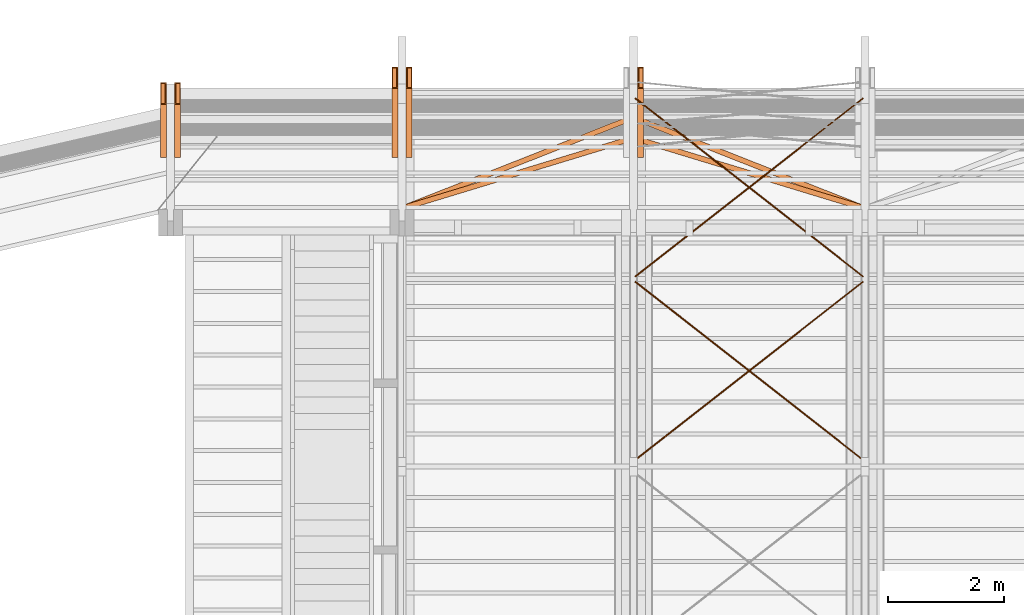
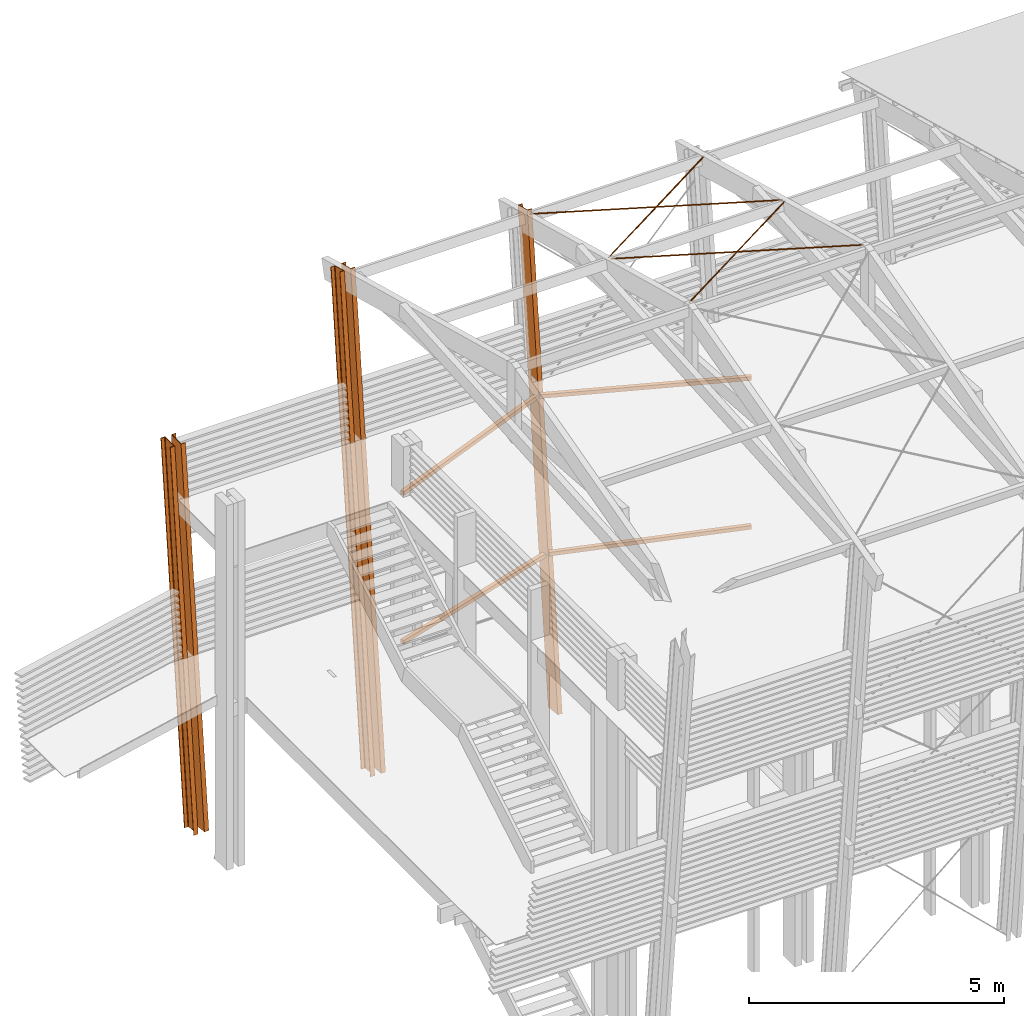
# One storey, part 39 of 48: 13 proxies.
"""IFC2X3 building model written with IfcOpenShell, lengths in metres."""

from ifc_helpers import new_model, si_unit, direction, frame, origin_with_axes, place, context, subcontext, project, spatial, faceted_brep, material, element, save


model = new_model("IFC2X3")

# Units and contexts
model_context = context("Model", 3, precision=1e-06, world=origin_with_axes(), true_north=direction((0.0, 1.0, 0.0)))
body_context = subcontext(model_context, "Body", "Model", "MODEL_VIEW")
ifc_project = project(units=[si_unit("LENGTHUNIT", "METRE"), si_unit("AREAUNIT", "SQUARE_METRE"), si_unit("VOLUMEUNIT", "CUBIC_METRE"), si_unit("PLANEANGLEUNIT", "RADIAN")], contexts=[model_context])

# Site, building, storey
site_placement = place(None, origin_with_axes())
site = spatial("IfcSite", under=ifc_project, at=site_placement, CompositionType="ELEMENT")
building_placement = place(site_placement, origin_with_axes())
building = spatial("IfcBuilding", under=site, at=building_placement, Name="Building 1", CompositionType="ELEMENT")
storey_placement = place(building_placement, origin_with_axes())
storey = spatial("IfcBuildingStorey", under=building, at=storey_placement, Name="Storey 1", CompositionType="ELEMENT", Elevation=0.0)

# Proxies
ifc_material_1 = material(Name="Acier")
proxy_1_placement = place(storey_placement, frame((33.4575102, -182.8443274, 11.682812), z_axis=(0.6294478, -0.7505657, 0.2011135), x_axis=(-0.7770428, -0.6079999, 0.1629131)))
element("IfcBuildingElementProxy", 1, at=proxy_1_placement, inside=storey, material=ifc_material_1, Name="CVT", context=body_context, shape_type="Brep", body=[
    faceted_brep([(5.0647581, -0.0093969, 0.0034202), (0.0, -0.01, 0.0), (5.0647581, -0.01, 0.0), (0.0, -0.0093969, -0.0034202), (5.0647581, -0.0093969, -0.0034202), (0.0, -0.0076604, -0.0064279), (5.0647581, -0.0076604, -0.0064279), (0.0, -0.005, -0.0086603), (5.0647581, -0.005, -0.0086603), (0.0, -0.0017365, -0.0098481), (5.0647581, -0.0017365, -0.0098481), (0.0, 0.0017365, -0.0098481), (5.0647581, 0.0017365, -0.0098481), (0.0, 0.005, -0.0086603), (5.0647581, 0.005, -0.0086603), (0.0, 0.0076604, -0.0064279), (5.0647581, 0.0076604, -0.0064279), (0.0, 0.0093969, -0.0034202), (5.0647581, 0.0093969, -0.0034202), (0.0, 0.01, 0.0), (5.0647581, 0.01, 0.0), (0.0, 0.0093969, 0.0034202), (5.0647581, 0.0093969, 0.0034202), (0.0, 0.0076604, 0.0064279), (5.0647581, 0.0076604, 0.0064279), (0.0, 0.005, 0.0086603), (5.0647581, 0.005, 0.0086603), (0.0, 0.0017365, 0.0098481), (5.0647581, 0.0017365, 0.0098481), (0.0, -0.0017365, 0.0098481), (5.0647581, -0.0017365, 0.0098481), (0.0, -0.005, 0.0086603), (5.0647581, -0.005, 0.0086603), (0.0, -0.0076604, 0.0064279), (5.0647581, -0.0076604, 0.0064279), (0.0, -0.0093969, 0.0034202)], [[[0, 1, 2]], [[2, 1, 3]], [[2, 3, 4]], [[4, 3, 5]], [[4, 5, 6]], [[6, 5, 7]], [[6, 7, 8]], [[8, 7, 9]], [[8, 9, 10]], [[10, 9, 11]], [[10, 11, 12]], [[12, 11, 13]], [[12, 13, 14]], [[14, 13, 15]], [[14, 15, 16]], [[16, 15, 17]], [[16, 17, 18]], [[18, 17, 19]], [[18, 19, 20]], [[20, 19, 21]], [[20, 21, 22]], [[22, 21, 23]], [[22, 23, 24]], [[24, 23, 25]], [[24, 25, 26]], [[26, 25, 27]], [[26, 27, 28]], [[28, 27, 29]], [[28, 29, 30]], [[30, 29, 31]], [[30, 31, 32]], [[32, 31, 33]], [[32, 33, 34]], [[34, 33, 35]], [[34, 35, 0]], [[0, 35, 1]], [[10, 12, 8]], [[8, 12, 14]], [[8, 14, 6]], [[6, 14, 16]], [[6, 16, 4]], [[4, 16, 18]], [[4, 18, 2]], [[2, 18, 20]], [[2, 20, 0]], [[0, 20, 22]], [[0, 22, 34]], [[34, 22, 24]], [[34, 24, 32]], [[32, 24, 26]], [[32, 26, 30]], [[30, 26, 28]], [[29, 27, 31]], [[31, 27, 25]], [[31, 25, 33]], [[33, 25, 23]], [[33, 23, 35]], [[35, 23, 21]], [[35, 21, 1]], [[1, 21, 19]], [[1, 19, 3]], [[3, 19, 17]], [[3, 17, 5]], [[5, 17, 15]], [[5, 15, 7]], [[7, 15, 13]], [[7, 13, 9]], [[9, 13, 11]]]),
])
proxy_2_placement = place(storey_placement, frame((29.5219768, -182.8443274, 11.682812), z_axis=(-0.6294478, -0.7505657, 0.2011135), x_axis=(0.7770428, -0.6079999, 0.1629131)))
element("IfcBuildingElementProxy", 2, at=proxy_2_placement, inside=storey, material=ifc_material_1, Name="CVT", context=body_context, shape_type="Brep", body=[
    faceted_brep([(5.0647581, 0.0093969, -0.0034202), (0.0, 0.01, 0.0), (5.0647581, 0.01, 0.0), (0.0, 0.0093969, 0.0034202), (5.0647581, 0.0093969, 0.0034202), (0.0, 0.0076604, 0.0064279), (5.0647581, 0.0076604, 0.0064279), (0.0, 0.005, 0.0086603), (5.0647581, 0.005, 0.0086603), (0.0, 0.0017365, 0.0098481), (5.0647581, 0.0017365, 0.0098481), (0.0, -0.0017365, 0.0098481), (5.0647581, -0.0017365, 0.0098481), (0.0, -0.005, 0.0086603), (5.0647581, -0.005, 0.0086603), (0.0, -0.0076604, 0.0064279), (5.0647581, -0.0076604, 0.0064279), (0.0, -0.0093969, 0.0034202), (5.0647581, -0.0093969, 0.0034202), (0.0, -0.01, 0.0), (5.0647581, -0.01, 0.0), (0.0, -0.0093969, -0.0034202), (5.0647581, -0.0093969, -0.0034202), (0.0, -0.0076604, -0.0064279), (5.0647581, -0.0076604, -0.0064279), (0.0, -0.005, -0.0086603), (5.0647581, -0.005, -0.0086603), (0.0, -0.0017365, -0.0098481), (5.0647581, -0.0017365, -0.0098481), (0.0, 0.0017365, -0.0098481), (5.0647581, 0.0017365, -0.0098481), (0.0, 0.005, -0.0086603), (5.0647581, 0.005, -0.0086603), (0.0, 0.0076604, -0.0064279), (5.0647581, 0.0076604, -0.0064279), (0.0, 0.0093969, -0.0034202)], [[[0, 1, 2]], [[2, 1, 3]], [[2, 3, 4]], [[4, 3, 5]], [[4, 5, 6]], [[6, 5, 7]], [[6, 7, 8]], [[8, 7, 9]], [[8, 9, 10]], [[10, 9, 11]], [[10, 11, 12]], [[12, 11, 13]], [[12, 13, 14]], [[14, 13, 15]], [[14, 15, 16]], [[16, 15, 17]], [[16, 17, 18]], [[18, 17, 19]], [[18, 19, 20]], [[20, 19, 21]], [[20, 21, 22]], [[22, 21, 23]], [[22, 23, 24]], [[24, 23, 25]], [[24, 25, 26]], [[26, 25, 27]], [[26, 27, 28]], [[28, 27, 29]], [[28, 29, 30]], [[30, 29, 31]], [[30, 31, 32]], [[32, 31, 33]], [[32, 33, 34]], [[34, 33, 35]], [[34, 35, 0]], [[0, 35, 1]], [[10, 12, 8]], [[8, 12, 14]], [[8, 14, 6]], [[6, 14, 16]], [[6, 16, 4]], [[4, 16, 18]], [[4, 18, 2]], [[2, 18, 20]], [[2, 20, 0]], [[0, 20, 22]], [[0, 22, 34]], [[34, 22, 24]], [[34, 24, 32]], [[32, 24, 26]], [[32, 26, 30]], [[30, 26, 28]], [[29, 27, 31]], [[31, 27, 25]], [[31, 25, 33]], [[33, 25, 23]], [[33, 23, 35]], [[35, 23, 21]], [[35, 21, 1]], [[1, 21, 19]], [[1, 19, 3]], [[3, 19, 17]], [[3, 17, 5]], [[5, 17, 15]], [[5, 15, 7]], [[7, 15, 13]], [[7, 13, 9]], [[9, 13, 11]]]),
])
proxy_3_placement = place(storey_placement, frame((33.4575106, -186.0137676, 12.5320609), z_axis=(0.6294478, -0.7505657, 0.2011135), x_axis=(-0.7770428, -0.6079999, 0.1629131)))
element("IfcBuildingElementProxy", 3, at=proxy_3_placement, inside=storey, material=ifc_material_1, Name="CVT", context=body_context, shape_type="Brep", body=[
    faceted_brep([(5.0647581, -0.0093969, 0.0034202), (0.0, -0.01, 0.0), (5.0647581, -0.01, 0.0), (0.0, -0.0093969, -0.0034202), (5.0647581, -0.0093969, -0.0034202), (0.0, -0.0076604, -0.0064279), (5.0647581, -0.0076604, -0.0064279), (0.0, -0.005, -0.0086603), (5.0647581, -0.005, -0.0086603), (0.0, -0.0017365, -0.0098481), (5.0647581, -0.0017365, -0.0098481), (0.0, 0.0017365, -0.0098481), (5.0647581, 0.0017365, -0.0098481), (0.0, 0.005, -0.0086603), (5.0647581, 0.005, -0.0086603), (0.0, 0.0076604, -0.0064279), (5.0647581, 0.0076604, -0.0064279), (0.0, 0.0093969, -0.0034202), (5.0647581, 0.0093969, -0.0034202), (0.0, 0.01, 0.0), (5.0647581, 0.01, 0.0), (0.0, 0.0093969, 0.0034202), (5.0647581, 0.0093969, 0.0034202), (0.0, 0.0076604, 0.0064279), (5.0647581, 0.0076604, 0.0064279), (0.0, 0.005, 0.0086603), (5.0647581, 0.005, 0.0086603), (0.0, 0.0017365, 0.0098481), (5.0647581, 0.0017365, 0.0098481), (0.0, -0.0017365, 0.0098481), (5.0647581, -0.0017365, 0.0098481), (0.0, -0.005, 0.0086603), (5.0647581, -0.005, 0.0086603), (0.0, -0.0076604, 0.0064279), (5.0647581, -0.0076604, 0.0064279), (0.0, -0.0093969, 0.0034202)], [[[0, 1, 2]], [[2, 1, 3]], [[2, 3, 4]], [[4, 3, 5]], [[4, 5, 6]], [[6, 5, 7]], [[6, 7, 8]], [[8, 7, 9]], [[8, 9, 10]], [[10, 9, 11]], [[10, 11, 12]], [[12, 11, 13]], [[12, 13, 14]], [[14, 13, 15]], [[14, 15, 16]], [[16, 15, 17]], [[16, 17, 18]], [[18, 17, 19]], [[18, 19, 20]], [[20, 19, 21]], [[20, 21, 22]], [[22, 21, 23]], [[22, 23, 24]], [[24, 23, 25]], [[24, 25, 26]], [[26, 25, 27]], [[26, 27, 28]], [[28, 27, 29]], [[28, 29, 30]], [[30, 29, 31]], [[30, 31, 32]], [[32, 31, 33]], [[32, 33, 34]], [[34, 33, 35]], [[34, 35, 0]], [[0, 35, 1]], [[10, 12, 8]], [[8, 12, 14]], [[8, 14, 6]], [[6, 14, 16]], [[6, 16, 4]], [[4, 16, 18]], [[4, 18, 2]], [[2, 18, 20]], [[2, 20, 0]], [[0, 20, 22]], [[0, 22, 34]], [[34, 22, 24]], [[34, 24, 32]], [[32, 24, 26]], [[32, 26, 30]], [[30, 26, 28]], [[29, 27, 31]], [[31, 27, 25]], [[31, 25, 33]], [[33, 25, 23]], [[33, 23, 35]], [[35, 23, 21]], [[35, 21, 1]], [[1, 21, 19]], [[1, 19, 3]], [[3, 19, 17]], [[3, 17, 5]], [[5, 17, 15]], [[5, 15, 7]], [[7, 15, 13]], [[7, 13, 9]], [[9, 13, 11]]]),
])
proxy_4_placement = place(storey_placement, frame((29.5219764, -186.0137676, 12.5320609), z_axis=(-0.6294478, -0.7505657, 0.2011135), x_axis=(0.7770428, -0.6079999, 0.1629131)))
element("IfcBuildingElementProxy", 4, at=proxy_4_placement, inside=storey, material=ifc_material_1, Name="CVT", context=body_context, shape_type="Brep", body=[
    faceted_brep([(5.0647581, 0.0093969, -0.0034202), (0.0, 0.01, 0.0), (5.0647581, 0.01, 0.0), (0.0, 0.0093969, 0.0034202), (5.0647581, 0.0093969, 0.0034202), (0.0, 0.0076604, 0.0064279), (5.0647581, 0.0076604, 0.0064279), (0.0, 0.005, 0.0086603), (5.0647581, 0.005, 0.0086603), (0.0, 0.0017365, 0.0098481), (5.0647581, 0.0017365, 0.0098481), (0.0, -0.0017365, 0.0098481), (5.0647581, -0.0017365, 0.0098481), (0.0, -0.005, 0.0086603), (5.0647581, -0.005, 0.0086603), (0.0, -0.0076604, 0.0064279), (5.0647581, -0.0076604, 0.0064279), (0.0, -0.0093969, 0.0034202), (5.0647581, -0.0093969, 0.0034202), (0.0, -0.01, 0.0), (5.0647581, -0.01, 0.0), (0.0, -0.0093969, -0.0034202), (5.0647581, -0.0093969, -0.0034202), (0.0, -0.0076604, -0.0064279), (5.0647581, -0.0076604, -0.0064279), (0.0, -0.005, -0.0086603), (5.0647581, -0.005, -0.0086603), (0.0, -0.0017365, -0.0098481), (5.0647581, -0.0017365, -0.0098481), (0.0, 0.0017365, -0.0098481), (5.0647581, 0.0017365, -0.0098481), (0.0, 0.005, -0.0086603), (5.0647581, 0.005, -0.0086603), (0.0, 0.0076604, -0.0064279), (5.0647581, 0.0076604, -0.0064279), (0.0, 0.0093969, -0.0034202)], [[[0, 1, 2]], [[2, 1, 3]], [[2, 3, 4]], [[4, 3, 5]], [[4, 5, 6]], [[6, 5, 7]], [[6, 7, 8]], [[8, 7, 9]], [[8, 9, 10]], [[10, 9, 11]], [[10, 11, 12]], [[12, 11, 13]], [[12, 13, 14]], [[14, 13, 15]], [[14, 15, 16]], [[16, 15, 17]], [[16, 17, 18]], [[18, 17, 19]], [[18, 19, 20]], [[20, 19, 21]], [[20, 21, 22]], [[22, 21, 23]], [[22, 23, 24]], [[24, 23, 25]], [[24, 25, 26]], [[26, 25, 27]], [[26, 27, 28]], [[28, 27, 29]], [[28, 29, 30]], [[30, 29, 31]], [[30, 31, 32]], [[32, 31, 33]], [[32, 33, 34]], [[34, 33, 35]], [[34, 35, 0]], [[0, 35, 1]], [[10, 12, 8]], [[8, 12, 14]], [[8, 14, 6]], [[6, 14, 16]], [[6, 16, 4]], [[4, 16, 18]], [[4, 18, 2]], [[2, 18, 20]], [[2, 20, 0]], [[0, 20, 22]], [[0, 22, 34]], [[34, 22, 24]], [[34, 24, 32]], [[32, 24, 26]], [[32, 26, 30]], [[30, 26, 28]], [[29, 27, 31]], [[31, 27, 25]], [[31, 25, 33]], [[33, 25, 23]], [[33, 23, 35]], [[35, 23, 21]], [[35, 21, 1]], [[1, 21, 19]], [[1, 19, 3]], [[3, 19, 17]], [[3, 17, 5]], [[5, 17, 15]], [[5, 15, 7]], [[7, 15, 13]], [[7, 13, 9]], [[9, 13, 11]]]),
])
ifc_material_2 = material(Name="GL28h")
proxy_5_placement = place(storey_placement, frame((33.4372017, -184.7290801, 3.984), z_axis=(-0.2909669, -0.9567331, 0.0), x_axis=(-0.9567331, 0.2909669, 0.0)))
element("IfcBuildingElementProxy", 5, at=proxy_5_placement, inside=storey, material=ifc_material_2, Name="CVLP", context=body_context, shape_type="Brep", body=[
    faceted_brep([(4.071058, -0.045, -0.045), (4.071058, -0.045, 0.045), (0.0, -0.045, 0.045), (0.0, -0.045, -0.045), (4.071058, 0.045, 0.045), (0.0, 0.045, 0.045), (4.071058, 0.045, -0.045), (0.0, 0.045, -0.045)], [[[0, 1, 2, 3]], [[1, 4, 5, 2]], [[4, 6, 7, 5]], [[6, 0, 3, 7]], [[1, 0, 6, 4]], [[7, 3, 2, 5]]]),
])
proxy_6_placement = place(storey_placement, frame((29.6107437, -182.4859924, 11.6408612), z_axis=(0.0, -0.9945219, 0.1045285), x_axis=(0.0, -0.1045285, -0.9945219)))
element("IfcBuildingElementProxy", 6, at=proxy_6_placement, inside=storey, material=ifc_material_1, Name="Poteau", context=body_context, shape_type="Brep", body=[
    faceted_brep([(0.0588262, 0.0506328, -0.181414), (0.0592057, 0.051, -0.18381), (0.0579402, 0.0433995, -0.17582), (0.0601861, 0.051, -0.19), (0.0574199, -0.022299, -0.172535), (0.0601861, -0.051, -0.19), (0.0572658, -0.0270483, -0.1715622), (0.0568935, -0.0312883, -0.1692116), (0.0045382, -0.0367655, 0.161347), (0.0052972, -0.0375, 0.156555), (0.0, -0.051, 0.19), (0.0548889, -0.0375, -0.156555), (0.0556479, -0.0367655, -0.161347), (0.0563372, -0.0346296, -0.165699), (0.0009804, 0.051, 0.18381), (0.0022459, 0.0433995, 0.17582), (0.0, 0.051, 0.19), (0.0027662, -0.022299, 0.172535), (0.0029203, -0.0270483, 0.1715622), (0.0032926, -0.0312883, 0.1692116), (0.0013599, 0.0506328, 0.181414), (0.0017045, 0.0495648, 0.179238), (0.0019827, 0.0478941, 0.1774817), (0.0021689, 0.0457742, 0.1763064), (0.0038489, -0.0346296, 0.165699), (0.0580172, 0.0457742, -0.1763064), (0.0582034, 0.0478941, -0.1774817), (0.0584816, 0.0495648, -0.179238), (11.420672, 0.0433995, 0.17582), (11.420672, 0.0457742, 0.1763064), (11.420672, 0.0478941, 0.1774817), (11.420672, 0.0495648, 0.179238), (11.420672, 0.0506328, 0.181414), (11.420672, 0.051, 0.18381), (11.420672, 0.051, 0.19), (11.420672, -0.051, 0.19), (11.420672, -0.051, -0.19), (11.420672, 0.051, -0.19), (11.420672, 0.051, -0.18381), (11.420672, 0.0506328, -0.181414), (11.420672, 0.0495648, -0.179238), (11.420672, 0.0478941, -0.1774817), (11.420672, 0.0457742, -0.1763064), (11.420672, 0.0433995, -0.17582), (11.420672, -0.022299, -0.172535), (11.420672, -0.0270483, -0.1715622), (11.420672, -0.0312883, -0.1692116), (11.420672, -0.0346296, -0.165699), (11.420672, -0.0367655, -0.161347), (11.420672, -0.0375, -0.156555), (11.420672, -0.0375, 0.156555), (11.420672, -0.0367655, 0.161347), (11.420672, -0.0346296, 0.165699), (11.420672, -0.0312883, 0.1692116), (11.420672, -0.0270483, 0.1715622), (11.420672, -0.022299, 0.172535)], [[[0, 1, 2]], [[2, 1, 3]], [[2, 3, 4]], [[4, 3, 5]], [[4, 5, 6]], [[6, 5, 7]], [[8, 9, 10]], [[10, 9, 11]], [[10, 11, 5]], [[5, 11, 12]], [[5, 12, 13]], [[14, 15, 16]], [[16, 15, 17]], [[16, 17, 10]], [[10, 17, 18]], [[10, 18, 19]], [[14, 20, 15]], [[15, 20, 21]], [[15, 21, 22]], [[22, 23, 15]], [[19, 24, 10]], [[10, 24, 8]], [[13, 7, 5]], [[25, 26, 2]], [[2, 26, 27]], [[2, 27, 0]], [[15, 23, 28]], [[28, 23, 29]], [[23, 22, 29]], [[29, 22, 30]], [[22, 21, 30]], [[30, 21, 31]], [[21, 20, 31]], [[31, 20, 32]], [[20, 14, 32]], [[32, 14, 33]], [[16, 34, 14]], [[14, 34, 33]], [[10, 5, 35]], [[35, 5, 36]], [[5, 3, 36]], [[36, 3, 37]], [[1, 38, 3]], [[3, 38, 37]], [[1, 0, 38]], [[38, 0, 39]], [[0, 27, 39]], [[39, 27, 40]], [[27, 26, 40]], [[40, 26, 41]], [[26, 25, 41]], [[41, 25, 42]], [[25, 2, 42]], [[42, 2, 43]], [[4, 44, 2]], [[2, 44, 43]], [[4, 6, 44]], [[44, 6, 45]], [[6, 7, 45]], [[45, 7, 46]], [[7, 13, 46]], [[46, 13, 47]], [[13, 12, 47]], [[47, 12, 48]], [[12, 11, 48]], [[48, 11, 49]], [[9, 50, 11]], [[11, 50, 49]], [[9, 8, 50]], [[50, 8, 51]], [[8, 24, 51]], [[51, 24, 52]], [[24, 19, 52]], [[52, 19, 53]], [[19, 18, 53]], [[53, 18, 54]], [[18, 17, 54]], [[54, 17, 55]], [[15, 28, 17]], [[17, 28, 55]], [[35, 34, 10]], [[10, 34, 16]], [[48, 49, 36]], [[36, 49, 50]], [[36, 50, 35]], [[35, 50, 51]], [[35, 51, 52]], [[41, 42, 38]], [[38, 42, 43]], [[38, 43, 37]], [[37, 43, 44]], [[37, 44, 36]], [[36, 44, 45]], [[36, 45, 46]], [[39, 40, 38]], [[38, 40, 41]], [[46, 47, 36]], [[36, 47, 48]], [[52, 53, 35]], [[35, 53, 54]], [[35, 54, 55]], [[35, 55, 34]], [[34, 55, 28]], [[34, 28, 33]], [[33, 28, 32]], [[29, 30, 28]], [[28, 30, 31]], [[28, 31, 32]]]),
])
proxy_7_placement = place(storey_placement, frame((25.6107437, -182.4859924, 11.6408612), z_axis=(0.0, -0.9945219, 0.1045285), x_axis=(0.0, -0.1045285, -0.9945219)))
element("IfcBuildingElementProxy", 7, at=proxy_7_placement, inside=storey, material=ifc_material_1, Name="Poteau", context=body_context, shape_type="Brep", body=[
    faceted_brep([(0.0588262, 0.0506328, -0.181414), (0.0592057, 0.051, -0.18381), (0.0579402, 0.0433995, -0.17582), (0.0601861, 0.051, -0.19), (0.0574199, -0.022299, -0.172535), (0.0601861, -0.051, -0.19), (0.0572658, -0.0270483, -0.1715622), (0.0568935, -0.0312883, -0.1692116), (0.0045382, -0.0367655, 0.161347), (0.0052972, -0.0375, 0.156555), (0.0, -0.051, 0.19), (0.0548889, -0.0375, -0.156555), (0.0556479, -0.0367655, -0.161347), (0.0563372, -0.0346296, -0.165699), (0.0009804, 0.051, 0.18381), (0.0022459, 0.0433995, 0.17582), (0.0, 0.051, 0.19), (0.0027662, -0.022299, 0.172535), (0.0029203, -0.0270483, 0.1715622), (0.0032926, -0.0312883, 0.1692116), (0.0013599, 0.0506328, 0.181414), (0.0017045, 0.0495648, 0.179238), (0.0019827, 0.0478941, 0.1774817), (0.0021689, 0.0457742, 0.1763064), (0.0038489, -0.0346296, 0.165699), (0.0580172, 0.0457742, -0.1763064), (0.0582034, 0.0478941, -0.1774817), (0.0584816, 0.0495648, -0.179238), (11.420672, 0.0433995, 0.17582), (11.420672, 0.0457742, 0.1763064), (11.420672, 0.0478941, 0.1774817), (11.420672, 0.0495648, 0.179238), (11.420672, 0.0506328, 0.181414), (11.420672, 0.051, 0.18381), (11.420672, 0.051, 0.19), (11.420672, -0.051, 0.19), (11.420672, -0.051, -0.19), (11.420672, 0.051, -0.19), (11.420672, 0.051, -0.18381), (11.420672, 0.0506328, -0.181414), (11.420672, 0.0495648, -0.179238), (11.420672, 0.0478941, -0.1774817), (11.420672, 0.0457742, -0.1763064), (11.420672, 0.0433995, -0.17582), (11.420672, -0.022299, -0.172535), (11.420672, -0.0270483, -0.1715622), (11.420672, -0.0312883, -0.1692116), (11.420672, -0.0346296, -0.165699), (11.420672, -0.0367655, -0.161347), (11.420672, -0.0375, -0.156555), (11.420672, -0.0375, 0.156555), (11.420672, -0.0367655, 0.161347), (11.420672, -0.0346296, 0.165699), (11.420672, -0.0312883, 0.1692116), (11.420672, -0.0270483, 0.1715622), (11.420672, -0.022299, 0.172535)], [[[0, 1, 2]], [[2, 1, 3]], [[2, 3, 4]], [[4, 3, 5]], [[4, 5, 6]], [[6, 5, 7]], [[8, 9, 10]], [[10, 9, 11]], [[10, 11, 5]], [[5, 11, 12]], [[5, 12, 13]], [[14, 15, 16]], [[16, 15, 17]], [[16, 17, 10]], [[10, 17, 18]], [[10, 18, 19]], [[14, 20, 15]], [[15, 20, 21]], [[15, 21, 22]], [[22, 23, 15]], [[19, 24, 10]], [[10, 24, 8]], [[13, 7, 5]], [[25, 26, 2]], [[2, 26, 27]], [[2, 27, 0]], [[15, 23, 28]], [[28, 23, 29]], [[23, 22, 29]], [[29, 22, 30]], [[22, 21, 30]], [[30, 21, 31]], [[21, 20, 31]], [[31, 20, 32]], [[20, 14, 32]], [[32, 14, 33]], [[16, 34, 14]], [[14, 34, 33]], [[10, 5, 35]], [[35, 5, 36]], [[5, 3, 36]], [[36, 3, 37]], [[1, 38, 3]], [[3, 38, 37]], [[1, 0, 38]], [[38, 0, 39]], [[0, 27, 39]], [[39, 27, 40]], [[27, 26, 40]], [[40, 26, 41]], [[26, 25, 41]], [[41, 25, 42]], [[25, 2, 42]], [[42, 2, 43]], [[4, 44, 2]], [[2, 44, 43]], [[4, 6, 44]], [[44, 6, 45]], [[6, 7, 45]], [[45, 7, 46]], [[7, 13, 46]], [[46, 13, 47]], [[13, 12, 47]], [[47, 12, 48]], [[12, 11, 48]], [[48, 11, 49]], [[9, 50, 11]], [[11, 50, 49]], [[9, 8, 50]], [[50, 8, 51]], [[8, 24, 51]], [[51, 24, 52]], [[24, 19, 52]], [[52, 19, 53]], [[19, 18, 53]], [[53, 18, 54]], [[18, 17, 54]], [[54, 17, 55]], [[15, 28, 17]], [[17, 28, 55]], [[35, 34, 10]], [[10, 34, 16]], [[48, 49, 36]], [[36, 49, 50]], [[36, 50, 35]], [[35, 50, 51]], [[35, 51, 52]], [[41, 42, 38]], [[38, 42, 43]], [[38, 43, 37]], [[37, 43, 44]], [[37, 44, 36]], [[36, 44, 45]], [[36, 45, 46]], [[39, 40, 38]], [[38, 40, 41]], [[46, 47, 36]], [[36, 47, 48]], [[52, 53, 35]], [[35, 53, 54]], [[35, 54, 55]], [[35, 55, 34]], [[34, 55, 28]], [[34, 28, 33]], [[33, 28, 32]], [[29, 30, 28]], [[28, 30, 31]], [[28, 31, 32]]]),
])
proxy_8_placement = place(storey_placement, frame((21.3687437, -182.7584788, 9.0483265), z_axis=(0.0, -0.9945219, 0.1045285), x_axis=(0.0, -0.1045285, -0.9945219)))
element("IfcBuildingElementProxy", 8, at=proxy_8_placement, inside=storey, material=ifc_material_1, Name="Poteau", context=body_context, shape_type="Brep", body=[
    faceted_brep([(0.0399396, 0.051, 0.19), (0.0399396, -0.051, 0.19), (8.813857, 0.051, 0.19), (8.813857, -0.051, 0.19), (0.039289, -0.051, 0.18381), (8.813857, -0.051, 0.18381), (0.0390372, -0.0506328, 0.181414), (8.813857, -0.0506328, 0.181414), (0.0388085, -0.0495648, 0.179238), (8.813857, -0.0495648, 0.179238), (0.0386239, -0.0478941, 0.1774817), (8.813857, -0.0478941, 0.1774817), (0.0385004, -0.0457742, 0.1763064), (8.813857, -0.0457742, 0.1763064), (0.0384492, -0.0433995, 0.17582), (8.813857, -0.0433995, 0.17582), (0.038104, 0.022299, 0.172535), (8.813857, 0.022299, 0.172535), (0.0380017, 0.0270483, 0.1715622), (8.813857, 0.0270483, 0.1715622), (0.0377547, 0.0312883, 0.1692116), (8.813857, 0.0312883, 0.1692116), (0.0373855, 0.0346296, 0.165699), (8.813857, 0.0346296, 0.165699), (0.0369281, 0.0367655, 0.161347), (8.813857, 0.0367655, 0.161347), (0.0364244, 0.0375, 0.156555), (8.813857, 0.0375, 0.156555), (0.0035152, 0.0375, -0.156555), (8.813857, 0.0375, -0.156555), (0.0030116, 0.0367655, -0.161347), (8.813857, 0.0367655, -0.161347), (0.0025541, 0.0346296, -0.165699), (8.813857, 0.0346296, -0.165699), (0.0021849, 0.0312883, -0.1692116), (8.813857, 0.0312883, -0.1692116), (0.0019379, 0.0270483, -0.1715622), (8.813857, 0.0270483, -0.1715622), (0.0018356, 0.022299, -0.172535), (8.813857, 0.022299, -0.172535), (0.0014904, -0.0433995, -0.17582), (8.813857, -0.0433995, -0.17582), (0.0014393, -0.0457742, -0.1763064), (8.813857, -0.0457742, -0.1763064), (0.0013157, -0.0478941, -0.1774817), (8.813857, -0.0478941, -0.1774817), (0.0011311, -0.0495648, -0.179238), (8.813857, -0.0495648, -0.179238), (0.0009024, -0.0506328, -0.181414), (8.813857, -0.0506328, -0.181414), (0.0006506, -0.051, -0.18381), (8.813857, -0.051, -0.18381), (0.0, -0.051, -0.19), (8.813857, -0.051, -0.19), (0.0, 0.051, -0.19), (8.813857, 0.051, -0.19)], [[[0, 1, 2]], [[2, 1, 3]], [[4, 5, 1]], [[1, 5, 3]], [[4, 6, 5]], [[5, 6, 7]], [[6, 8, 7]], [[7, 8, 9]], [[8, 10, 9]], [[9, 10, 11]], [[10, 12, 11]], [[11, 12, 13]], [[12, 14, 13]], [[13, 14, 15]], [[16, 17, 14]], [[14, 17, 15]], [[16, 18, 17]], [[17, 18, 19]], [[18, 20, 19]], [[19, 20, 21]], [[20, 22, 21]], [[21, 22, 23]], [[22, 24, 23]], [[23, 24, 25]], [[24, 26, 25]], [[25, 26, 27]], [[28, 29, 26]], [[26, 29, 27]], [[28, 30, 29]], [[29, 30, 31]], [[30, 32, 31]], [[31, 32, 33]], [[32, 34, 33]], [[33, 34, 35]], [[34, 36, 35]], [[35, 36, 37]], [[36, 38, 37]], [[37, 38, 39]], [[40, 41, 38]], [[38, 41, 39]], [[40, 42, 41]], [[41, 42, 43]], [[42, 44, 43]], [[43, 44, 45]], [[44, 46, 45]], [[45, 46, 47]], [[46, 48, 47]], [[47, 48, 49]], [[48, 50, 49]], [[49, 50, 51]], [[52, 53, 50]], [[50, 53, 51]], [[52, 54, 53]], [[53, 54, 55]], [[54, 0, 55]], [[55, 0, 2]], [[32, 30, 54]], [[54, 30, 28]], [[54, 28, 0]], [[0, 28, 26]], [[0, 26, 24]], [[50, 40, 52]], [[52, 40, 38]], [[52, 38, 54]], [[54, 38, 36]], [[54, 36, 34]], [[50, 48, 40]], [[40, 48, 46]], [[40, 46, 44]], [[44, 42, 40]], [[34, 32, 54]], [[24, 22, 0]], [[0, 22, 20]], [[0, 20, 18]], [[18, 16, 0]], [[0, 16, 1]], [[16, 14, 1]], [[1, 14, 4]], [[12, 10, 14]], [[14, 10, 8]], [[14, 8, 6]], [[6, 4, 14]], [[23, 25, 2]], [[2, 25, 27]], [[2, 27, 55]], [[55, 27, 29]], [[55, 29, 31]], [[5, 15, 3]], [[3, 15, 17]], [[3, 17, 2]], [[2, 17, 19]], [[2, 19, 21]], [[5, 7, 15]], [[15, 7, 9]], [[15, 9, 11]], [[11, 13, 15]], [[21, 23, 2]], [[31, 33, 55]], [[55, 33, 35]], [[55, 35, 37]], [[37, 39, 55]], [[55, 39, 53]], [[39, 41, 53]], [[53, 41, 51]], [[41, 43, 51]], [[51, 43, 45]], [[51, 45, 47]], [[47, 49, 51]]]),
])
proxy_9_placement = place(storey_placement, frame((25.3687437, -182.4859924, 11.6408612), z_axis=(0.0, -0.9945219, 0.1045285), x_axis=(0.0, -0.1045285, -0.9945219)))
element("IfcBuildingElementProxy", 9, at=proxy_9_placement, inside=storey, material=ifc_material_1, Name="Poteau", context=body_context, shape_type="Brep", body=[
    faceted_brep([(0.0563372, 0.0346296, -0.165699), (0.0556479, 0.0367655, -0.161347), (0.0601861, 0.051, -0.19), (0.0548889, 0.0375, -0.156555), (0.0, 0.051, 0.19), (0.0052972, 0.0375, 0.156555), (0.0045382, 0.0367655, 0.161347), (0.0592057, -0.051, -0.18381), (0.0579402, -0.0433995, -0.17582), (0.0601861, -0.051, -0.19), (0.0574199, 0.022299, -0.172535), (0.0572658, 0.0270483, -0.1715622), (0.0568935, 0.0312883, -0.1692116), (0.0588262, -0.0506328, -0.181414), (0.0584816, -0.0495648, -0.179238), (0.0582034, -0.0478941, -0.1774817), (0.0580172, -0.0457742, -0.1763064), (0.0038489, 0.0346296, 0.165699), (0.0032926, 0.0312883, 0.1692116), (0.0029203, 0.0270483, 0.1715622), (0.0027662, 0.022299, 0.172535), (0.0, -0.051, 0.19), (0.0022459, -0.0433995, 0.17582), (0.0009804, -0.051, 0.18381), (0.0021689, -0.0457742, 0.1763064), (0.0019827, -0.0478941, 0.1774817), (0.0017045, -0.0495648, 0.179238), (0.0013599, -0.0506328, 0.181414), (11.420672, 0.0375, -0.156555), (11.420672, 0.0367655, -0.161347), (11.420672, 0.0346296, -0.165699), (11.420672, 0.0312883, -0.1692116), (11.420672, 0.0270483, -0.1715622), (11.420672, 0.022299, -0.172535), (11.420672, -0.0433995, -0.17582), (11.420672, -0.0457742, -0.1763064), (11.420672, -0.0478941, -0.1774817), (11.420672, -0.0495648, -0.179238), (11.420672, -0.0506328, -0.181414), (11.420672, -0.051, -0.18381), (11.420672, -0.051, -0.19), (11.420672, 0.051, -0.19), (11.420672, 0.051, 0.19), (11.420672, -0.051, 0.19), (11.420672, -0.051, 0.18381), (11.420672, -0.0506328, 0.181414), (11.420672, -0.0495648, 0.179238), (11.420672, -0.0478941, 0.1774817), (11.420672, -0.0457742, 0.1763064), (11.420672, -0.0433995, 0.17582), (11.420672, 0.022299, 0.172535), (11.420672, 0.0270483, 0.1715622), (11.420672, 0.0312883, 0.1692116), (11.420672, 0.0346296, 0.165699), (11.420672, 0.0367655, 0.161347), (11.420672, 0.0375, 0.156555)], [[[0, 1, 2]], [[2, 1, 3]], [[2, 3, 4]], [[4, 3, 5]], [[4, 5, 6]], [[7, 8, 9]], [[9, 8, 10]], [[9, 10, 2]], [[2, 10, 11]], [[2, 11, 12]], [[7, 13, 8]], [[8, 13, 14]], [[8, 14, 15]], [[15, 16, 8]], [[12, 0, 2]], [[6, 17, 4]], [[4, 17, 18]], [[4, 18, 19]], [[19, 20, 4]], [[4, 20, 21]], [[20, 22, 21]], [[21, 22, 23]], [[24, 25, 22]], [[22, 25, 26]], [[22, 26, 27]], [[27, 23, 22]], [[3, 1, 28]], [[28, 1, 29]], [[1, 0, 29]], [[29, 0, 30]], [[0, 12, 30]], [[30, 12, 31]], [[12, 11, 31]], [[31, 11, 32]], [[11, 10, 32]], [[32, 10, 33]], [[10, 8, 33]], [[33, 8, 34]], [[8, 16, 34]], [[34, 16, 35]], [[16, 15, 35]], [[35, 15, 36]], [[15, 14, 36]], [[36, 14, 37]], [[14, 13, 37]], [[37, 13, 38]], [[13, 7, 38]], [[38, 7, 39]], [[7, 9, 39]], [[39, 9, 40]], [[9, 2, 40]], [[40, 2, 41]], [[4, 42, 2]], [[2, 42, 41]], [[43, 42, 21]], [[21, 42, 4]], [[21, 23, 43]], [[43, 23, 44]], [[23, 27, 44]], [[44, 27, 45]], [[27, 26, 45]], [[45, 26, 46]], [[26, 25, 46]], [[46, 25, 47]], [[25, 24, 47]], [[47, 24, 48]], [[24, 22, 48]], [[48, 22, 49]], [[22, 20, 49]], [[49, 20, 50]], [[20, 19, 50]], [[50, 19, 51]], [[19, 18, 51]], [[51, 18, 52]], [[18, 17, 52]], [[52, 17, 53]], [[17, 6, 53]], [[53, 6, 54]], [[6, 5, 54]], [[54, 5, 55]], [[5, 3, 55]], [[55, 3, 28]], [[53, 54, 42]], [[42, 54, 55]], [[42, 55, 41]], [[41, 55, 28]], [[41, 28, 29]], [[44, 49, 43]], [[43, 49, 50]], [[43, 50, 42]], [[42, 50, 51]], [[42, 51, 52]], [[44, 45, 49]], [[49, 45, 46]], [[49, 46, 47]], [[47, 48, 49]], [[52, 53, 42]], [[29, 30, 41]], [[41, 30, 31]], [[41, 31, 32]], [[32, 33, 41]], [[41, 33, 40]], [[33, 34, 40]], [[40, 34, 39]], [[34, 35, 39]], [[39, 35, 36]], [[39, 36, 37]], [[37, 38, 39]]]),
])
proxy_10_placement = place(storey_placement, frame((21.6107437, -182.7584788, 9.0483265), z_axis=(0.0, -0.9945219, 0.1045285), x_axis=(0.0, -0.1045285, -0.9945219)))
element("IfcBuildingElementProxy", 10, at=proxy_10_placement, inside=storey, material=ifc_material_1, Name="Poteau", context=body_context, shape_type="Brep", body=[
    faceted_brep([(0.0, -0.051, -0.19), (0.0, 0.051, -0.19), (8.813857, -0.051, -0.19), (8.813857, 0.051, -0.19), (0.0006506, 0.051, -0.18381), (8.813857, 0.051, -0.18381), (0.0009024, 0.0506328, -0.181414), (8.813857, 0.0506328, -0.181414), (0.0011311, 0.0495648, -0.179238), (8.813857, 0.0495648, -0.179238), (0.0013157, 0.0478941, -0.1774817), (8.813857, 0.0478941, -0.1774817), (0.0014393, 0.0457742, -0.1763064), (8.813857, 0.0457742, -0.1763064), (0.0014904, 0.0433995, -0.17582), (8.813857, 0.0433995, -0.17582), (0.0018356, -0.022299, -0.172535), (8.813857, -0.022299, -0.172535), (0.0019379, -0.0270483, -0.1715622), (8.813857, -0.0270483, -0.1715622), (0.0021849, -0.0312883, -0.1692116), (8.813857, -0.0312883, -0.1692116), (0.0025541, -0.0346296, -0.165699), (8.813857, -0.0346296, -0.165699), (0.0030116, -0.0367655, -0.161347), (8.813857, -0.0367655, -0.161347), (0.0035152, -0.0375, -0.156555), (8.813857, -0.0375, -0.156555), (0.0364244, -0.0375, 0.156555), (8.813857, -0.0375, 0.156555), (0.0369281, -0.0367655, 0.161347), (8.813857, -0.0367655, 0.161347), (0.0373855, -0.0346296, 0.165699), (8.813857, -0.0346296, 0.165699), (0.0377547, -0.0312883, 0.1692116), (8.813857, -0.0312883, 0.1692116), (0.0380017, -0.0270483, 0.1715622), (8.813857, -0.0270483, 0.1715622), (0.038104, -0.022299, 0.172535), (8.813857, -0.022299, 0.172535), (0.0384492, 0.0433995, 0.17582), (8.813857, 0.0433995, 0.17582), (0.0385004, 0.0457742, 0.1763064), (8.813857, 0.0457742, 0.1763064), (0.0386239, 0.0478941, 0.1774817), (8.813857, 0.0478941, 0.1774817), (0.0388085, 0.0495648, 0.179238), (8.813857, 0.0495648, 0.179238), (0.0390372, 0.0506328, 0.181414), (8.813857, 0.0506328, 0.181414), (0.039289, 0.051, 0.18381), (8.813857, 0.051, 0.18381), (0.0399396, 0.051, 0.19), (8.813857, 0.051, 0.19), (0.0399396, -0.051, 0.19), (8.813857, -0.051, 0.19)], [[[0, 1, 2]], [[2, 1, 3]], [[1, 4, 3]], [[3, 4, 5]], [[4, 6, 5]], [[5, 6, 7]], [[6, 8, 7]], [[7, 8, 9]], [[8, 10, 9]], [[9, 10, 11]], [[10, 12, 11]], [[11, 12, 13]], [[12, 14, 13]], [[13, 14, 15]], [[14, 16, 15]], [[15, 16, 17]], [[16, 18, 17]], [[17, 18, 19]], [[18, 20, 19]], [[19, 20, 21]], [[20, 22, 21]], [[21, 22, 23]], [[22, 24, 23]], [[23, 24, 25]], [[24, 26, 25]], [[25, 26, 27]], [[26, 28, 27]], [[27, 28, 29]], [[28, 30, 29]], [[29, 30, 31]], [[30, 32, 31]], [[31, 32, 33]], [[32, 34, 33]], [[33, 34, 35]], [[34, 36, 35]], [[35, 36, 37]], [[36, 38, 37]], [[37, 38, 39]], [[38, 40, 39]], [[39, 40, 41]], [[40, 42, 41]], [[41, 42, 43]], [[42, 44, 43]], [[43, 44, 45]], [[44, 46, 45]], [[45, 46, 47]], [[46, 48, 47]], [[47, 48, 49]], [[48, 50, 49]], [[49, 50, 51]], [[50, 52, 51]], [[51, 52, 53]], [[52, 54, 53]], [[53, 54, 55]], [[25, 27, 2]], [[2, 27, 29]], [[2, 29, 55]], [[55, 29, 31]], [[55, 31, 33]], [[11, 13, 5]], [[5, 13, 15]], [[5, 15, 3]], [[3, 15, 17]], [[3, 17, 2]], [[2, 17, 19]], [[2, 19, 21]], [[7, 9, 5]], [[5, 9, 11]], [[21, 23, 2]], [[2, 23, 25]], [[33, 35, 55]], [[55, 35, 37]], [[55, 37, 39]], [[55, 39, 53]], [[53, 39, 41]], [[53, 41, 51]], [[51, 41, 49]], [[43, 45, 41]], [[41, 45, 47]], [[41, 47, 49]], [[0, 2, 54]], [[54, 2, 55]], [[30, 28, 54]], [[54, 28, 26]], [[54, 26, 0]], [[0, 26, 24]], [[0, 24, 22]], [[50, 40, 52]], [[52, 40, 38]], [[52, 38, 54]], [[54, 38, 36]], [[54, 36, 34]], [[50, 48, 40]], [[40, 48, 46]], [[40, 46, 44]], [[44, 42, 40]], [[34, 32, 54]], [[54, 32, 30]], [[22, 20, 0]], [[0, 20, 18]], [[0, 18, 16]], [[0, 16, 1]], [[1, 16, 14]], [[1, 14, 4]], [[4, 14, 6]], [[12, 10, 14]], [[14, 10, 8]], [[14, 8, 6]]]),
])
proxy_11_placement = place(storey_placement, frame((25.5377471, -184.7306656, 7.544), z_axis=(0.3666108, -0.9303744, 0.0), x_axis=(0.9303744, 0.3666108, 0.0)))
element("IfcBuildingElementProxy", 11, at=proxy_11_placement, inside=storey, material=ifc_material_2, Name="CVLP", context=body_context, shape_type="Brep", body=[
    faceted_brep([(4.196153, -0.045, -0.045), (4.196153, -0.045, 0.045), (0.0, -0.045, 0.045), (0.0, -0.045, -0.045), (4.196153, 0.045, 0.045), (0.0, 0.045, 0.045), (4.196153, 0.045, -0.045), (0.0, 0.045, -0.045)], [[[0, 1, 2, 3]], [[1, 4, 5, 2]], [[4, 6, 7, 5]], [[6, 0, 3, 7]], [[1, 0, 6, 4]], [[7, 3, 2, 5]]]),
])
proxy_12_placement = place(storey_placement, frame((25.5422857, -184.7290801, 3.984), z_axis=(0.2909669, -0.9567331, 0.0), x_axis=(0.9567331, 0.2909669, 0.0)))
element("IfcBuildingElementProxy", 12, at=proxy_12_placement, inside=storey, material=ifc_material_2, Name="CVLP", context=body_context, shape_type="Brep", body=[
    faceted_brep([(4.071058, -0.045, -0.045), (4.071058, -0.045, 0.045), (0.0, -0.045, 0.045), (0.0, -0.045, -0.045), (4.071058, 0.045, 0.045), (0.0, 0.045, 0.045), (4.071058, 0.045, -0.045), (0.0, 0.045, -0.045)], [[[0, 1, 2, 3]], [[1, 4, 5, 2]], [[4, 6, 7, 5]], [[6, 0, 3, 7]], [[1, 0, 6, 4]], [[7, 3, 2, 5]]]),
])
proxy_13_placement = place(storey_placement, frame((33.4417403, -184.7306656, 7.544), z_axis=(-0.3666108, -0.9303744, 0.0), x_axis=(-0.9303744, 0.3666108, 0.0)))
element("IfcBuildingElementProxy", 13, at=proxy_13_placement, inside=storey, material=ifc_material_2, Name="CVLP", context=body_context, shape_type="Brep", body=[
    faceted_brep([(4.196153, -0.045, -0.045), (4.196153, -0.045, 0.045), (0.0, -0.045, 0.045), (0.0, -0.045, -0.045), (4.196153, 0.045, 0.045), (0.0, 0.045, 0.045), (4.196153, 0.045, -0.045), (0.0, 0.045, -0.045)], [[[0, 1, 2, 3]], [[1, 4, 5, 2]], [[4, 6, 7, 5]], [[6, 0, 3, 7]], [[1, 0, 6, 4]], [[7, 3, 2, 5]]]),
])

save(model, "model.ifc")
